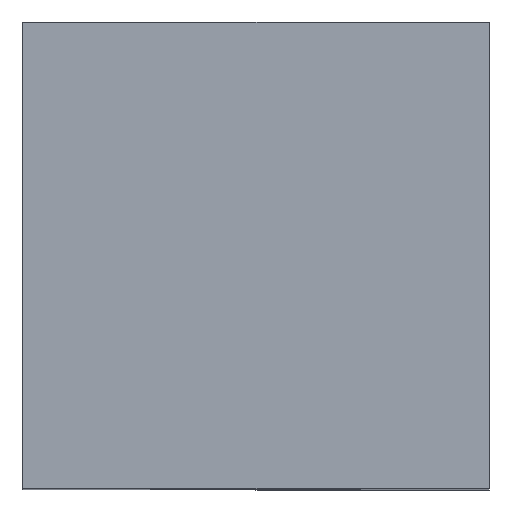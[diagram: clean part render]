
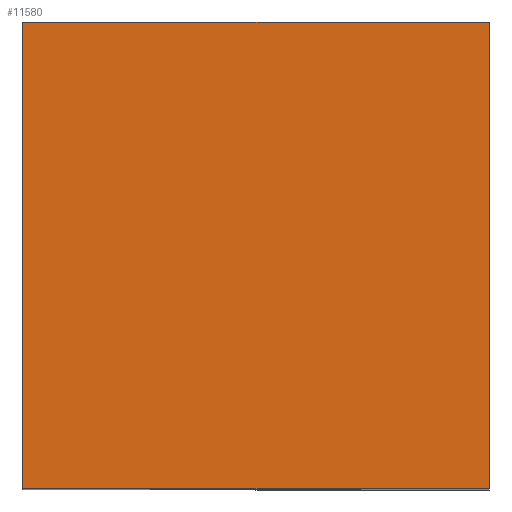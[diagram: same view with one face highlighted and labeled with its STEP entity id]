
A CAD part, top view. The second image highlights one B-rep face of the part: STEP entity #11580.
In plain terms, the highlighted planar face has unit normal (0, 0, 1).
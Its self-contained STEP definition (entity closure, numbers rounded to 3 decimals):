
#91 = CARTESIAN_POINT ( 'NONE',  ( 0., 0., 19. ) ) ;
#248 = CARTESIAN_POINT ( 'NONE',  ( 0., 0., 19. ) ) ;
#295 = DIRECTION ( 'NONE',  ( 0., 1., 0. ) ) ;
#306 = DIRECTION ( 'NONE',  ( 0., -1., 0. ) ) ;
#465 = EDGE_CURVE ( 'NONE', #7043, #10404, #3001, .T. ) ;
#609 = AXIS2_PLACEMENT_3D ( 'NONE', #3802, #10903, #7326 ) ;
#1004 = VERTEX_POINT ( 'NONE', #91 ) ;
#1126 = PLANE ( 'NONE',  #609 ) ;
#1207 = DIRECTION ( 'NONE',  ( -1., 0., 0. ) ) ;
#1236 = ORIENTED_EDGE ( 'NONE', *, *, #7378, .T. ) ;
#1291 = CARTESIAN_POINT ( 'NONE',  ( 20., 20., 19. ) ) ;
#2048 = LINE ( 'NONE', #9196, #10884 ) ;
#2055 = FACE_OUTER_BOUND ( 'NONE', #10805, .T. ) ;
#2757 = LINE ( 'NONE', #248, #5082 ) ;
#3001 = LINE ( 'NONE', #4825, #3387 ) ;
#3387 = VECTOR ( 'NONE', #1207, 1000. ) ;
#3802 = CARTESIAN_POINT ( 'NONE',  ( 0., 0., 19. ) ) ;
#4472 = CARTESIAN_POINT ( 'NONE',  ( 20., 20., 19. ) ) ;
#4672 = EDGE_CURVE ( 'NONE', #10616, #7043, #8318, .T. ) ;
#4825 = CARTESIAN_POINT ( 'NONE',  ( 0., 20., 19. ) ) ;
#5082 = VECTOR ( 'NONE', #306, 1000. ) ;
#6297 = ORIENTED_EDGE ( 'NONE', *, *, #465, .T. ) ;
#6386 = DIRECTION ( 'NONE',  ( 1., 0., 0. ) ) ;
#6962 = VECTOR ( 'NONE', #295, 1000. ) ;
#7043 = VERTEX_POINT ( 'NONE', #4472 ) ;
#7176 = ORIENTED_EDGE ( 'NONE', *, *, #11559, .T. ) ;
#7326 = DIRECTION ( 'NONE',  ( -1., 0., 0. ) ) ;
#7378 = EDGE_CURVE ( 'NONE', #1004, #10616, #2048, .T. ) ;
#8318 = LINE ( 'NONE', #1291, #6962 ) ;
#8990 = CARTESIAN_POINT ( 'NONE',  ( 20., 0., 19. ) ) ;
#9020 = ORIENTED_EDGE ( 'NONE', *, *, #4672, .T. ) ;
#9196 = CARTESIAN_POINT ( 'NONE',  ( 20., 0., 19. ) ) ;
#10404 = VERTEX_POINT ( 'NONE', #10427 ) ;
#10427 = CARTESIAN_POINT ( 'NONE',  ( 0., 20., 19. ) ) ;
#10616 = VERTEX_POINT ( 'NONE', #8990 ) ;
#10805 = EDGE_LOOP ( 'NONE', ( #7176, #1236, #9020, #6297 ) ) ;
#10884 = VECTOR ( 'NONE', #6386, 1000. ) ;
#10903 = DIRECTION ( 'NONE',  ( 0., 0., -1. ) ) ;
#11559 = EDGE_CURVE ( 'NONE', #10404, #1004, #2757, .T. ) ;
#11580 = ADVANCED_FACE ( 'NONE', ( #2055 ), #1126, .F. ) ;
